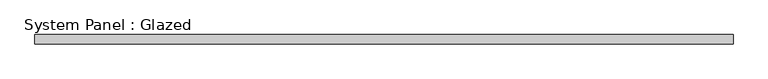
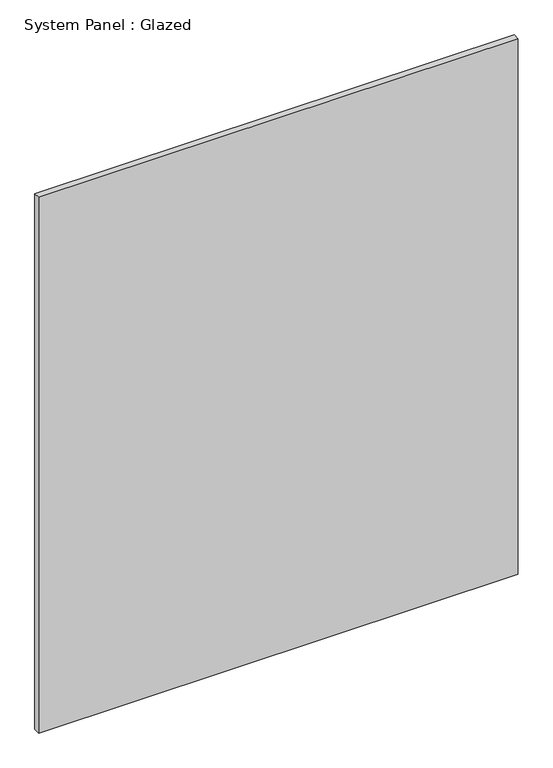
"""IFC4 building model written with IfcOpenShell, lengths in millimetres: plate geometry, System Panel : Glazed."""

from ifc_helpers import new_model, si_unit, origin, origin_with_axes, place, context, project, spatial, polyline, outline, extrude, source, transform, mapped, element, save


def system_panel_glazed_ee0e3f30(model_context):
    return source(origin(), model_context, "Body", "SweptSolid", [
        extrude(outline(polyline([(942.5, -49.5), (-942.5, -49.5), (-942.5, -24.5), (942.5, -24.5), (942.5, -49.5)])), origin_with_axes(), (0.0, 0.0, 1.0), 2225.0),
    ])


if __name__ == "__main__":
    model = new_model("IFC4")
    model_context = context("Model", 3, world=origin())
    ifc_project = project(units=[si_unit("LENGTHUNIT", "METRE", prefix="MILLI")], contexts=[model_context])
    site = spatial("IfcSite", under=ifc_project)
    building = spatial("IfcBuilding", under=site)
    placement = place(None, origin())
    system_panel_glazed_shape = system_panel_glazed_ee0e3f30(model_context)
    element("IfcPlate", 1, ObjectType="System Panel : Glazed", at=placement, inside=building, context=model_context, shape_type="MappedRepresentation", body=[
        mapped(system_panel_glazed_shape, transform((0.0, 0.0, 0.0), x_axis=(1.0, 0.0, 0.0), y_axis=(0.0, 1.0, 0.0), z_axis=(0.0, 0.0, 1.0))),
    ])
    save(model, "model.ifc")
